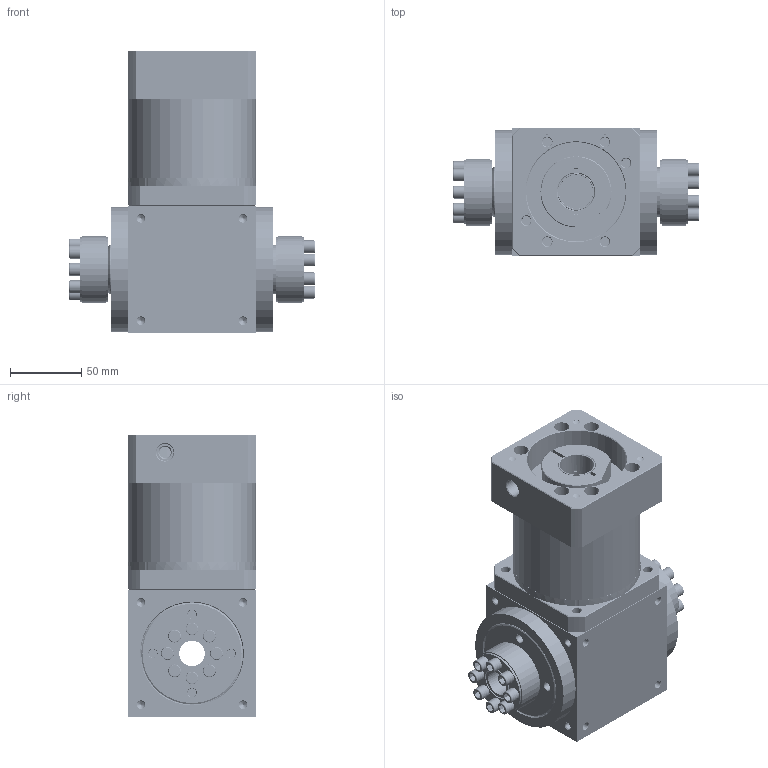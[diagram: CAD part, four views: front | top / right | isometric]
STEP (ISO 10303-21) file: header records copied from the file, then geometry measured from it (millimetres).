
FILE_DESCRIPTION (( 'STEP AP203' ), '1' );
FILE_NAME ('LAT90-LAB90-C-ZJ2-22-47.STEP', '2025-01-15T07:07:59', ( '微软用户' ), ( '微软中国' ), 'SwSTEP 2.0', 'SolidWorks 2022', '' );
FILE_SCHEMA (( 'CONFIG_CONTROL_DESIGN' ));
Products named in the file (1): LAT90-LAB90-C-ZJ2-22-47
Bounding box: 173 x 90 x 199 mm (x, y, z)
Volume: 1300906.8 mm3; surface area: 293858.3 mm2
Topology: 33 solids, 33 shells, 2343 faces, 5769 edges, 3524 vertices
Faces by surface type: cylinder 1008, plane 774, cone 333, bspline 186, torus 42
Entity records: 130550 total; most frequent: CARTESIAN_POINT 79619, ORIENTED_EDGE 11458, DIRECTION 9852, EDGE_CURVE 5729, AXIS2_PLACEMENT_3D 4088, VERTEX_POINT 3524, EDGE_LOOP 2577, FACE_OUTER_BOUND 2343
